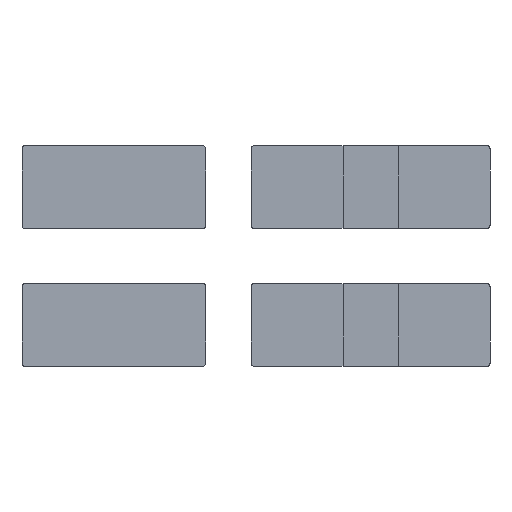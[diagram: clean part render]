
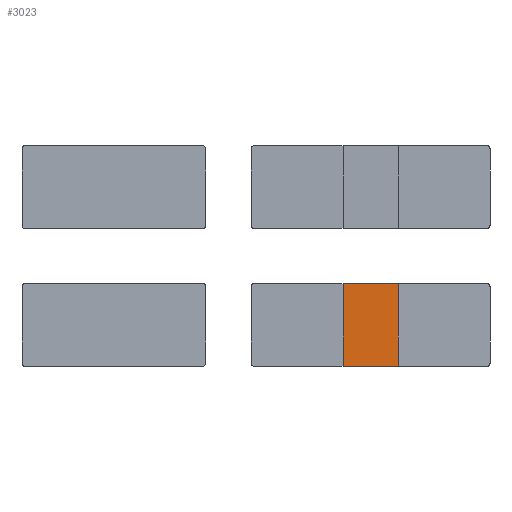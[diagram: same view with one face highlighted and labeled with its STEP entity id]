
A CAD part, top view. The second image highlights one B-rep face of the part: STEP entity #3023.
In plain terms, the highlighted free-form (B-spline) face has degree [1, 1] with [2, 2] control points.
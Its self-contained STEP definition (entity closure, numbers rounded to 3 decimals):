
#3023=ADVANCED_FACE('',(#3719),#24377,.T.);
#3719=FACE_OUTER_BOUND('',#4415,.T.);
#4415=EDGE_LOOP('',(#5745,#5746,#5747,#5748));
#5745=ORIENTED_EDGE('',*,*,#20846,.T.);
#5746=ORIENTED_EDGE('',*,*,#20847,.T.);
#5747=ORIENTED_EDGE('',*,*,#20848,.T.);
#5748=ORIENTED_EDGE('',*,*,#20849,.T.);
#9351=B_SPLINE_CURVE_WITH_KNOTS('',1,(#34303,#34304),.UNSPECIFIED.,.F.,
 .F.,(2,2),(0.,900.),.UNSPECIFIED.);
#9352=B_SPLINE_CURVE_WITH_KNOTS('',1,(#34305,#34306),.UNSPECIFIED.,.F.,
 .F.,(2,2),(0.,900.),.UNSPECIFIED.);
#9353=B_SPLINE_CURVE_WITH_KNOTS('',1,(#34307,#34308),.UNSPECIFIED.,.F.,
 .F.,(2,2),(0.,600.),.UNSPECIFIED.);
#9354=B_SPLINE_CURVE_WITH_KNOTS('',1,(#34309,#34310),.UNSPECIFIED.,.F.,
 .F.,(2,2),(0.,600.),.UNSPECIFIED.);
#9355=B_SPLINE_CURVE_WITH_KNOTS('',1,(#34311,#34312),.UNSPECIFIED.,.F.,
 .F.,(2,2),(0.,900.),.UNSPECIFIED.);
#9356=B_SPLINE_CURVE_WITH_KNOTS('',1,(#34313,#34314),.UNSPECIFIED.,.F.,
 .F.,(2,2),(0.,900.),.UNSPECIFIED.);
#9357=B_SPLINE_CURVE_WITH_KNOTS('',1,(#34315,#34316),.UNSPECIFIED.,.F.,
 .F.,(2,2),(0.,600.),.UNSPECIFIED.);
#9358=B_SPLINE_CURVE_WITH_KNOTS('',1,(#34317,#34318),.UNSPECIFIED.,.F.,
 .F.,(2,2),(0.,600.),.UNSPECIFIED.);
#9370=B_SPLINE_CURVE_WITH_KNOTS('',1,(#34341,#34342),.UNSPECIFIED.,.F.,
 .F.,(2,2),(0.,900.),.UNSPECIFIED.);
#9376=B_SPLINE_CURVE_WITH_KNOTS('',1,(#34353,#34354),.UNSPECIFIED.,.F.,
 .F.,(2,2),(0.,600.),.UNSPECIFIED.);
#9381=B_SPLINE_CURVE_WITH_KNOTS('',1,(#34363,#34364),.UNSPECIFIED.,.F.,
 .F.,(2,2),(0.,900.),.UNSPECIFIED.);
#9385=B_SPLINE_CURVE_WITH_KNOTS('',1,(#34371,#34372),.UNSPECIFIED.,.F.,
 .F.,(2,2),(0.,600.),.UNSPECIFIED.);
#13130=PCURVE('',#24377,#16378);
#13131=PCURVE('',#24377,#16379);
#13132=PCURVE('',#24377,#16380);
#13133=PCURVE('',#24377,#16381);
#13140=PCURVE('',#24379,#16388);
#13144=PCURVE('',#24380,#16392);
#13148=PCURVE('',#24381,#16396);
#13152=PCURVE('',#24382,#16400);
#16378=DEFINITIONAL_REPRESENTATION('',(#9352),#51218);
#16379=DEFINITIONAL_REPRESENTATION('',(#9354),#51218);
#16380=DEFINITIONAL_REPRESENTATION('',(#9356),#51218);
#16381=DEFINITIONAL_REPRESENTATION('',(#9358),#51218);
#16388=DEFINITIONAL_REPRESENTATION('',(#9370),#51218);
#16392=DEFINITIONAL_REPRESENTATION('',(#9376),#51218);
#16396=DEFINITIONAL_REPRESENTATION('',(#9381),#51218);
#16400=DEFINITIONAL_REPRESENTATION('',(#9385),#51218);
#19222=SURFACE_CURVE('',#9351,(#13130,#13140),.PCURVE_S1.);
#19223=SURFACE_CURVE('',#9353,(#13131,#13144),.PCURVE_S1.);
#19224=SURFACE_CURVE('',#9355,(#13132,#13148),.PCURVE_S1.);
#19225=SURFACE_CURVE('',#9357,(#13133,#13152),.PCURVE_S1.);
#20846=EDGE_CURVE('',#23226,#23227,#19222,.T.);
#20847=EDGE_CURVE('',#23227,#23228,#19223,.T.);
#20848=EDGE_CURVE('',#23228,#23229,#19224,.T.);
#20849=EDGE_CURVE('',#23229,#23226,#19225,.T.);
#23226=VERTEX_POINT('',#34295);
#23227=VERTEX_POINT('',#34296);
#23228=VERTEX_POINT('',#34297);
#23229=VERTEX_POINT('',#34298);
#24377=B_SPLINE_SURFACE_WITH_KNOTS('',1,1,((#34271,#34272),(#34273,#34274)),
 .UNSPECIFIED.,.F.,.F.,.F.,(2,2),(2,2),(60.12,660.12),(90.12,
990.12),.UNSPECIFIED.);
#24379=B_SPLINE_SURFACE_WITH_KNOTS('',1,1,((#34279,#34280),(#34281,#34282)),
 .UNSPECIFIED.,.F.,.F.,.F.,(2,2),(2,2),(2.,23.),
(90.,990.),.UNSPECIFIED.);
#24380=B_SPLINE_SURFACE_WITH_KNOTS('',1,1,((#34283,#34284),(#34285,#34286)),
 .UNSPECIFIED.,.F.,.F.,.F.,(2,2),(2,2),(2.,23.),
(60.,660.),.UNSPECIFIED.);
#24381=B_SPLINE_SURFACE_WITH_KNOTS('',1,1,((#34287,#34288),(#34289,#34290)),
 .UNSPECIFIED.,.F.,.F.,.F.,(2,2),(2,2),(2.,23.),
(90.,990.),.UNSPECIFIED.);
#24382=B_SPLINE_SURFACE_WITH_KNOTS('',1,1,((#34291,#34292),(#34293,#34294)),
 .UNSPECIFIED.,.F.,.F.,.F.,(2,2),(2,2),(2.,23.),
(60.,660.),.UNSPECIFIED.);
#34271=CARTESIAN_POINT('',(15751.372,-9261.858,730.034));
#34272=CARTESIAN_POINT('',(15751.372,-8361.858,730.034));
#34273=CARTESIAN_POINT('',(16351.372,-9261.858,730.034));
#34274=CARTESIAN_POINT('',(16351.372,-8361.858,730.034));
#34279=CARTESIAN_POINT('',(15751.372,-9261.858,709.034));
#34280=CARTESIAN_POINT('',(15751.372,-8361.858,709.034));
#34281=CARTESIAN_POINT('',(15751.372,-9261.858,730.034));
#34282=CARTESIAN_POINT('',(15751.372,-8361.858,730.034));
#34283=CARTESIAN_POINT('',(16351.372,-9261.858,709.034));
#34284=CARTESIAN_POINT('',(15751.372,-9261.858,709.034));
#34285=CARTESIAN_POINT('',(16351.372,-9261.858,730.034));
#34286=CARTESIAN_POINT('',(15751.372,-9261.858,730.034));
#34287=CARTESIAN_POINT('',(16351.372,-8361.858,709.034));
#34288=CARTESIAN_POINT('',(16351.372,-9261.858,709.034));
#34289=CARTESIAN_POINT('',(16351.372,-8361.858,730.034));
#34290=CARTESIAN_POINT('',(16351.372,-9261.858,730.034));
#34291=CARTESIAN_POINT('',(15751.372,-8361.858,709.034));
#34292=CARTESIAN_POINT('',(16351.372,-8361.858,709.034));
#34293=CARTESIAN_POINT('',(15751.372,-8361.858,730.034));
#34294=CARTESIAN_POINT('',(16351.372,-8361.858,730.034));
#34295=CARTESIAN_POINT('',(15751.372,-8361.858,730.034));
#34296=CARTESIAN_POINT('',(15751.372,-9261.858,730.034));
#34297=CARTESIAN_POINT('',(16351.372,-9261.858,730.034));
#34298=CARTESIAN_POINT('',(16351.372,-8361.858,730.034));
#34303=CARTESIAN_POINT('',(15751.372,-8361.858,730.034));
#34304=CARTESIAN_POINT('',(15751.372,-9261.858,730.034));
#34305=CARTESIAN_POINT('',(60.12,990.12));
#34306=CARTESIAN_POINT('',(60.12,90.12));
#34307=CARTESIAN_POINT('',(15751.372,-9261.858,730.034));
#34308=CARTESIAN_POINT('',(16351.372,-9261.858,730.034));
#34309=CARTESIAN_POINT('',(60.12,90.12));
#34310=CARTESIAN_POINT('',(660.12,90.12));
#34311=CARTESIAN_POINT('',(16351.372,-9261.858,730.034));
#34312=CARTESIAN_POINT('',(16351.372,-8361.858,730.034));
#34313=CARTESIAN_POINT('',(660.12,90.12));
#34314=CARTESIAN_POINT('',(660.12,990.12));
#34315=CARTESIAN_POINT('',(16351.372,-8361.858,730.034));
#34316=CARTESIAN_POINT('',(15751.372,-8361.858,730.034));
#34317=CARTESIAN_POINT('',(660.12,990.12));
#34318=CARTESIAN_POINT('',(60.12,990.12));
#34341=CARTESIAN_POINT('',(23.,990.));
#34342=CARTESIAN_POINT('',(23.,90.));
#34353=CARTESIAN_POINT('',(23.,660.));
#34354=CARTESIAN_POINT('',(23.,60.));
#34363=CARTESIAN_POINT('',(23.,990.));
#34364=CARTESIAN_POINT('',(23.,90.));
#34371=CARTESIAN_POINT('',(23.,660.));
#34372=CARTESIAN_POINT('',(23.,60.));
#51218=(
GEOMETRIC_REPRESENTATION_CONTEXT(2)
PARAMETRIC_REPRESENTATION_CONTEXT()
REPRESENTATION_CONTEXT('pspace','')
);
